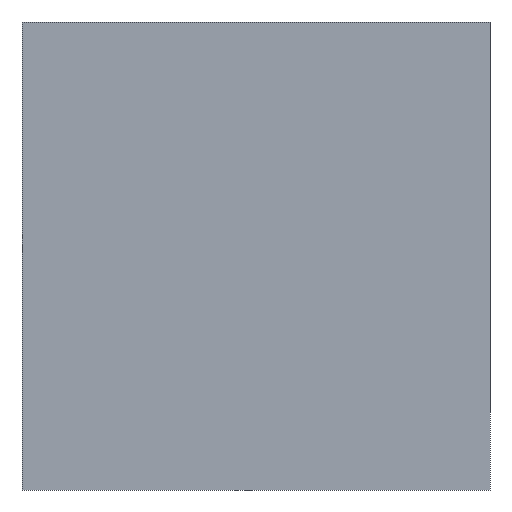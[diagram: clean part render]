
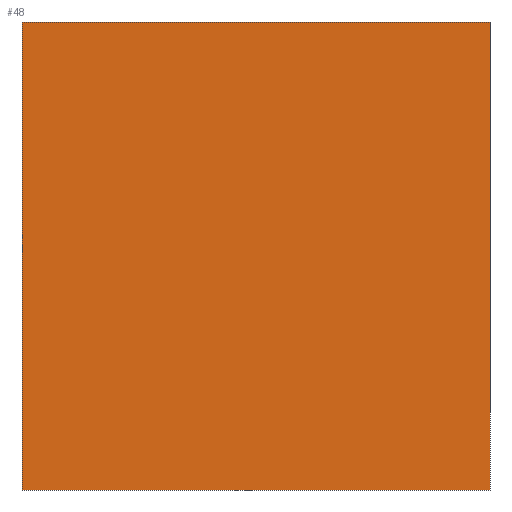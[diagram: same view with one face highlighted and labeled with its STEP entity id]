
A CAD part, front view. The second image highlights one B-rep face of the part: STEP entity #48.
In plain terms, the highlighted planar face has unit normal (0, -1, 0).
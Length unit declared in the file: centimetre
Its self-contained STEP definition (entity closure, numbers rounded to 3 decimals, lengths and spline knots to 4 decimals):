
#9 = CARTESIAN_POINT ( 'NONE',  ( 1000., 0., 1000. ) ) ;
#47 = DIRECTION ( 'NONE',  ( 0., 1., 0. ) ) ;
#48 = ADVANCED_FACE ( 'NONE', ( #450 ), #90, .F. ) ;
#50 = VERTEX_POINT ( 'NONE', #411 ) ;
#65 = EDGE_LOOP ( 'NONE', ( #300, #552, #482, #103 ) ) ;
#81 = CARTESIAN_POINT ( 'NONE',  ( 0., 0., 1000. ) ) ;
#90 = PLANE ( 'NONE',  #550 ) ;
#101 = EDGE_CURVE ( 'NONE', #306, #50, #399, .T. ) ;
#103 = ORIENTED_EDGE ( 'NONE', *, *, #101, .T. ) ;
#164 = DIRECTION ( 'NONE',  ( 0., 0., -1. ) ) ;
#177 = DIRECTION ( 'NONE',  ( 1., 0., 0. ) ) ;
#181 = CARTESIAN_POINT ( 'NONE',  ( 0., 0., 1000. ) ) ;
#203 = CARTESIAN_POINT ( 'NONE',  ( 0., 0., 1000. ) ) ;
#217 = CARTESIAN_POINT ( 'NONE',  ( 1000., 0., 1000. ) ) ;
#225 = DIRECTION ( 'NONE',  ( 0., 0., 1. ) ) ;
#248 = CARTESIAN_POINT ( 'NONE',  ( 1000., 0., 0. ) ) ;
#286 = VERTEX_POINT ( 'NONE', #217 ) ;
#289 = DIRECTION ( 'NONE',  ( 1., 0., 0. ) ) ;
#300 = ORIENTED_EDGE ( 'NONE', *, *, #429, .T. ) ;
#306 = VERTEX_POINT ( 'NONE', #81 ) ;
#315 = CARTESIAN_POINT ( 'NONE',  ( 0., 0., 0. ) ) ;
#322 = LINE ( 'NONE', #9, #575 ) ;
#333 = CARTESIAN_POINT ( 'NONE',  ( 0., 0., 1000. ) ) ;
#399 = LINE ( 'NONE', #203, #439 ) ;
#411 = CARTESIAN_POINT ( 'NONE',  ( 0., 0., 0. ) ) ;
#419 = VECTOR ( 'NONE', #289, 100. ) ;
#429 = EDGE_CURVE ( 'NONE', #50, #576, #592, .T. ) ;
#439 = VECTOR ( 'NONE', #164, 100. ) ;
#450 = FACE_OUTER_BOUND ( 'NONE', #65, .T. ) ;
#459 = EDGE_CURVE ( 'NONE', #286, #576, #322, .T. ) ;
#482 = ORIENTED_EDGE ( 'NONE', *, *, #588, .F. ) ;
#491 = VECTOR ( 'NONE', #177, 100. ) ;
#541 = DIRECTION ( 'NONE',  ( 0., 0., -1. ) ) ;
#550 = AXIS2_PLACEMENT_3D ( 'NONE', #181, #47, #225 ) ;
#552 = ORIENTED_EDGE ( 'NONE', *, *, #459, .F. ) ;
#566 = LINE ( 'NONE', #333, #419 ) ;
#575 = VECTOR ( 'NONE', #541, 100. ) ;
#576 = VERTEX_POINT ( 'NONE', #248 ) ;
#588 = EDGE_CURVE ( 'NONE', #306, #286, #566, .T. ) ;
#592 = LINE ( 'NONE', #315, #491 ) ;
